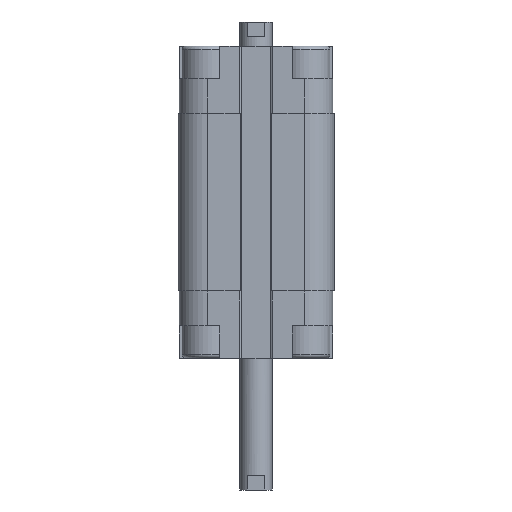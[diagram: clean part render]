
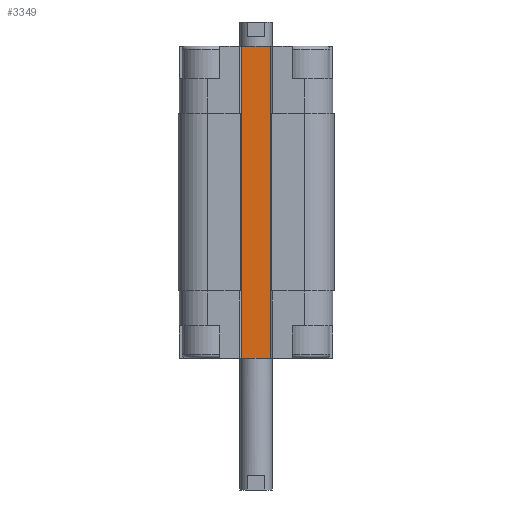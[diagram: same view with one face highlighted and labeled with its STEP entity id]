
A CAD part, front view. The second image highlights one B-rep face of the part: STEP entity #3349.
In plain terms, the highlighted planar face has unit normal (0, -1, 0).
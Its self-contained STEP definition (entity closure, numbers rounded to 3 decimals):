
#72 = CARTESIAN_POINT ( 'NONE',  ( -3., -9.5, 0. ) ) ;
#110 = DIRECTION ( 'NONE',  ( 0., 0., 1. ) ) ;
#502 = LINE ( 'NONE', #7352, #9359 ) ;
#945 = LINE ( 'NONE', #11925, #9003 ) ;
#1025 = DIRECTION ( 'NONE',  ( 0., 0., 1. ) ) ;
#1588 = VERTEX_POINT ( 'NONE', #15796 ) ;
#1590 = ORIENTED_EDGE ( 'NONE', *, *, #12048, .F. ) ;
#2166 = EDGE_CURVE ( 'NONE', #7039, #9182, #5617, .T. ) ;
#2499 = ORIENTED_EDGE ( 'NONE', *, *, #16810, .T. ) ;
#2647 = EDGE_CURVE ( 'NONE', #16266, #9182, #11153, .T. ) ;
#2790 = DIRECTION ( 'NONE',  ( 0., 0., 1. ) ) ;
#3025 = VECTOR ( 'NONE', #2790, 1000. ) ;
#3073 = VERTEX_POINT ( 'NONE', #5467 ) ;
#3349 = ADVANCED_FACE ( 'NONE', ( #11841 ), #9147, .T. ) ;
#3534 = ORIENTED_EDGE ( 'NONE', *, *, #4354, .F. ) ;
#3631 = CARTESIAN_POINT ( 'NONE',  ( -3., -9.5, -58. ) ) ;
#3741 = CARTESIAN_POINT ( 'NONE',  ( -3., -9.5, -58. ) ) ;
#3804 = EDGE_CURVE ( 'NONE', #3073, #1588, #15197, .T. ) ;
#3874 = EDGE_CURVE ( 'NONE', #16266, #15387, #16178, .T. ) ;
#3938 = ORIENTED_EDGE ( 'NONE', *, *, #15515, .T. ) ;
#4184 = ORIENTED_EDGE ( 'NONE', *, *, #2647, .F. ) ;
#4300 = LINE ( 'NONE', #8803, #12070 ) ;
#4354 = EDGE_CURVE ( 'NONE', #12027, #16520, #12831, .T. ) ;
#4439 = VECTOR ( 'NONE', #8705, 1000. ) ;
#4489 = DIRECTION ( 'NONE',  ( 1., 0., 0. ) ) ;
#5116 = LINE ( 'NONE', #14374, #12169 ) ;
#5242 = ORIENTED_EDGE ( 'NONE', *, *, #2166, .T. ) ;
#5467 = CARTESIAN_POINT ( 'NONE',  ( 3., -9.5, -58. ) ) ;
#5617 = LINE ( 'NONE', #8133, #16125 ) ;
#6141 = VERTEX_POINT ( 'NONE', #3631 ) ;
#6855 = CARTESIAN_POINT ( 'NONE',  ( 3.2, -9.5, -12.5 ) ) ;
#6922 = ORIENTED_EDGE ( 'NONE', *, *, #7108, .F. ) ;
#7039 = VERTEX_POINT ( 'NONE', #14808 ) ;
#7089 = ORIENTED_EDGE ( 'NONE', *, *, #8653, .F. ) ;
#7108 = EDGE_CURVE ( 'NONE', #12611, #15387, #4300, .T. ) ;
#7215 = EDGE_CURVE ( 'NONE', #6141, #3073, #15601, .T. ) ;
#7352 = CARTESIAN_POINT ( 'NONE',  ( -3., -9.5, -58. ) ) ;
#7553 = DIRECTION ( 'NONE',  ( 1., 0., 0. ) ) ;
#7889 = VECTOR ( 'NONE', #11070, 1000. ) ;
#8118 = DIRECTION ( 'NONE',  ( 0., 0., 1. ) ) ;
#8133 = CARTESIAN_POINT ( 'NONE',  ( 3.2, -9.5, -45.5 ) ) ;
#8211 = DIRECTION ( 'NONE',  ( 0., 0., 1. ) ) ;
#8213 = ORIENTED_EDGE ( 'NONE', *, *, #14460, .F. ) ;
#8369 = CARTESIAN_POINT ( 'NONE',  ( 3., -9.5, 0. ) ) ;
#8653 = EDGE_CURVE ( 'NONE', #16520, #12611, #945, .T. ) ;
#8705 = DIRECTION ( 'NONE',  ( 1., 0., 0. ) ) ;
#8776 = CARTESIAN_POINT ( 'NONE',  ( -3., -9.5, -45.5 ) ) ;
#8803 = CARTESIAN_POINT ( 'NONE',  ( -3., -9.5, 0. ) ) ;
#9003 = VECTOR ( 'NONE', #17374, 1000. ) ;
#9035 = CARTESIAN_POINT ( 'NONE',  ( -3.2, -9.5, -12.5 ) ) ;
#9147 = PLANE ( 'NONE',  #17688 ) ;
#9182 = VERTEX_POINT ( 'NONE', #6855 ) ;
#9359 = VECTOR ( 'NONE', #1025, 1000. ) ;
#9895 = LINE ( 'NONE', #11330, #12987 ) ;
#9915 = ORIENTED_EDGE ( 'NONE', *, *, #7215, .T. ) ;
#10057 = VERTEX_POINT ( 'NONE', #12637 ) ;
#10755 = CARTESIAN_POINT ( 'NONE',  ( -3., -9.5, -12.5 ) ) ;
#11021 = CARTESIAN_POINT ( 'NONE',  ( 3., -9.5, -12.5 ) ) ;
#11070 = DIRECTION ( 'NONE',  ( 1., 0., 0. ) ) ;
#11153 = LINE ( 'NONE', #15434, #7889 ) ;
#11330 = CARTESIAN_POINT ( 'NONE',  ( -3.2, -9.5, -45.5 ) ) ;
#11407 = DIRECTION ( 'NONE',  ( 1., 0., 0. ) ) ;
#11841 = FACE_OUTER_BOUND ( 'NONE', #15325, .T. ) ;
#11925 = CARTESIAN_POINT ( 'NONE',  ( -3., -9.5, -12.5 ) ) ;
#12027 = VERTEX_POINT ( 'NONE', #9035 ) ;
#12048 = EDGE_CURVE ( 'NONE', #10057, #12027, #15655, .T. ) ;
#12070 = VECTOR ( 'NONE', #11407, 1000. ) ;
#12169 = VECTOR ( 'NONE', #7553, 1000. ) ;
#12428 = CARTESIAN_POINT ( 'NONE',  ( 3., -9.5, -58. ) ) ;
#12611 = VERTEX_POINT ( 'NONE', #72 ) ;
#12637 = CARTESIAN_POINT ( 'NONE',  ( -3.2, -9.5, -45.5 ) ) ;
#12831 = LINE ( 'NONE', #13001, #4439 ) ;
#12987 = VECTOR ( 'NONE', #4489, 1000. ) ;
#13001 = CARTESIAN_POINT ( 'NONE',  ( -3.2, -9.5, -12.5 ) ) ;
#13206 = ORIENTED_EDGE ( 'NONE', *, *, #3804, .T. ) ;
#13776 = VECTOR ( 'NONE', #14700, 1000. ) ;
#14374 = CARTESIAN_POINT ( 'NONE',  ( -3.2, -9.5, -45.5 ) ) ;
#14460 = EDGE_CURVE ( 'NONE', #6141, #17612, #502, .T. ) ;
#14606 = DIRECTION ( 'NONE',  ( -1., 0., 0. ) ) ;
#14700 = DIRECTION ( 'NONE',  ( 1., 0., 0. ) ) ;
#14802 = ORIENTED_EDGE ( 'NONE', *, *, #3874, .T. ) ;
#14808 = CARTESIAN_POINT ( 'NONE',  ( 3.2, -9.5, -45.5 ) ) ;
#15005 = CARTESIAN_POINT ( 'NONE',  ( -3., -9.5, -12.5 ) ) ;
#15197 = LINE ( 'NONE', #12428, #16168 ) ;
#15320 = VECTOR ( 'NONE', #8118, 1000. ) ;
#15325 = EDGE_LOOP ( 'NONE', ( #6922, #7089, #3534, #1590, #2499, #8213, #9915, #13206, #3938, #5242, #4184, #14802 ) ) ;
#15387 = VERTEX_POINT ( 'NONE', #8369 ) ;
#15434 = CARTESIAN_POINT ( 'NONE',  ( 9., -9.5, -12.5 ) ) ;
#15515 = EDGE_CURVE ( 'NONE', #1588, #7039, #9895, .T. ) ;
#15601 = LINE ( 'NONE', #3741, #13776 ) ;
#15655 = LINE ( 'NONE', #16438, #3025 ) ;
#15796 = CARTESIAN_POINT ( 'NONE',  ( 3., -9.5, -45.5 ) ) ;
#16125 = VECTOR ( 'NONE', #110, 1000. ) ;
#16168 = VECTOR ( 'NONE', #8211, 1000. ) ;
#16178 = LINE ( 'NONE', #16353, #15320 ) ;
#16266 = VERTEX_POINT ( 'NONE', #11021 ) ;
#16353 = CARTESIAN_POINT ( 'NONE',  ( 3., -9.5, -12.5 ) ) ;
#16438 = CARTESIAN_POINT ( 'NONE',  ( -3.2, -9.5, -45.5 ) ) ;
#16520 = VERTEX_POINT ( 'NONE', #15005 ) ;
#16810 = EDGE_CURVE ( 'NONE', #10057, #17612, #5116, .T. ) ;
#17287 = DIRECTION ( 'NONE',  ( 0., -1., 0. ) ) ;
#17374 = DIRECTION ( 'NONE',  ( 0., 0., 1. ) ) ;
#17612 = VERTEX_POINT ( 'NONE', #8776 ) ;
#17688 = AXIS2_PLACEMENT_3D ( 'NONE', #10755, #17287, #14606 ) ;
